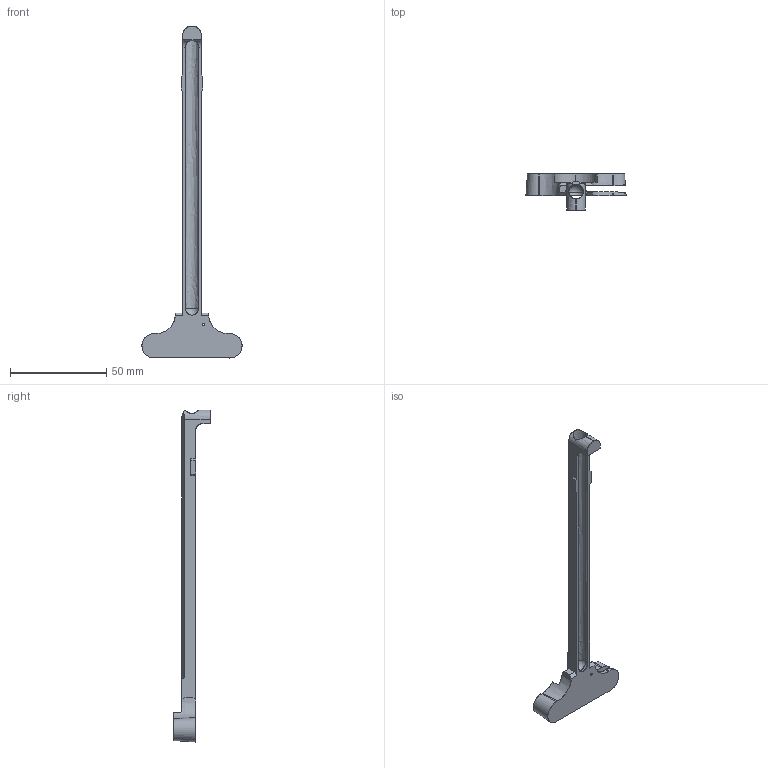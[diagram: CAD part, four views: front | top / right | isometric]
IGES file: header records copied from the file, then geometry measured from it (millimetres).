
Start section: SolidWorks IGES file using analytic representation for surfaces
Global section: file name: C:\Users\owner\Desktop\AR charging handle.IGS; native system: SolidWorks 2008; preprocessor: SolidWorks 2008; author: owner; date: 110706.151311; units: inch
Bounding box: 52.07 x 19.05 x 172.59 mm (x, y, z)
Surface area: 10310.5 mm2 (no closed solid volume)
Topology: 0 solids, 0 shells, 423 faces, 5321 edges, 5321 vertices
Faces by surface type: bspline 400, revolution 23
